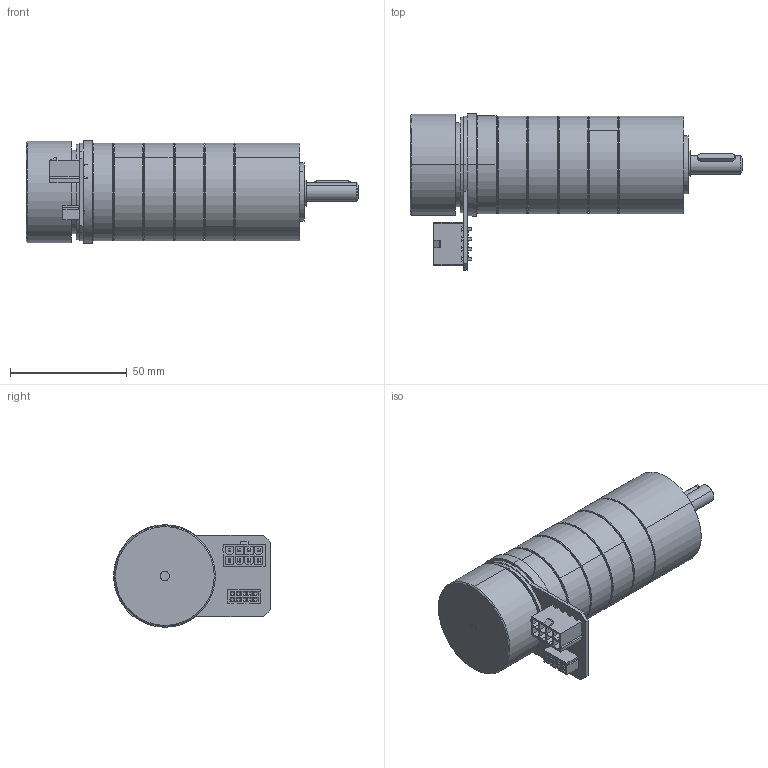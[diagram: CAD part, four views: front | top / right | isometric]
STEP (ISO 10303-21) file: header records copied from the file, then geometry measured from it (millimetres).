
FILE_DESCRIPTION (( 'STEP AP214' ), '1' );
FILE_NAME ('EC45Flat-70W + PM42-4 étages.STEP', '2014-11-18T14:09:07', ( '' ), ( '' ), 'SwSTEP 2.0', 'SolidWorks 2013', '' );
FILE_SCHEMA (( 'AUTOMOTIVE_DESIGN' ));
Length unit declared in the file: millimetre
Products named in the file (22): 8012556_MOTORRITZEL_Z17_1_3; 8001288_ANLAUFSCHEIBE_1ST_9; 8007606_DICHTRING_10; EC45Flat-70w+mile; P8209_8007589_ZAHNKRANZ_Z46_10; 906350101; 039281083; EC45Flat-70W + PM42-4 étages; EC45FLAT-70W+mile; PM42 pour EC45Flat-70W_4 etages; Coté sortie^PM42 pour EC45Flat-70W; SCHRAUBE_1241978_17; 3X3X16_D6885A_11; D471_8X0_8_11; 8001316_ABTRIEB_LK4_KPL_10; 8001305_LAGERBOLZEN_11; VBZ_K7841_ABTRIEB_AF0_11; DIN998_PS_8X14X1_11; D625-608-2RS_10; 8007595_LAGERFLANSCH_10; Coté moteur^PM42 pour EC45Flat-70W; 1008602_Part
Assembly tree (35 placements, depth 5):
  EC45Flat-70W + PM42-4 étages
    PM42 pour EC45Flat-70W_4 etages
      P8209_8007589_ZAHNKRANZ_Z46_10  x4
      Coté moteur^PM42 pour EC45Flat-70W
        8007606_DICHTRING_10
        8001288_ANLAUFSCHEIBE_1ST_9
        8012556_MOTORRITZEL_Z17_1_3
        1008602_Part
      Coté sortie^PM42 pour EC45Flat-70W
        8007595_LAGERFLANSCH_10
        D625-608-2RS_10  x2
        DIN998_PS_8X14X1_11  x2
        8001316_ABTRIEB_LK4_KPL_10
          VBZ_K7841_ABTRIEB_AF0_11
          8001305_LAGERBOLZEN_11  x3
        D471_8X0_8_11
        3X3X16_D6885A_11
        8007606_DICHTRING_10
        SCHRAUBE_1241978_17  x4
      8007606_DICHTRING_10  x3
    EC45Flat-70w+mile
      EC45FLAT-70W+mile
      039281083
      906350101
Bounding box: 142.45 x 67.3 x 44 mm (x, y, z)
Volume: 102422 mm3; surface area: 77396.6 mm2
Topology: 28 solids, 49 shells, 1990 faces, 5316 edges, 3484 vertices
Faces by surface type: plane 1073, cylinder 757, cone 108, bspline 52
Entity records: 38776 total; most frequent: CARTESIAN_POINT 7961, DIRECTION 6257, ORIENTED_EDGE 6086, EDGE_CURVE 3063, LINE 2197, VECTOR 2197, AXIS2_PLACEMENT_3D 2030, VERTEX_POINT 2010
